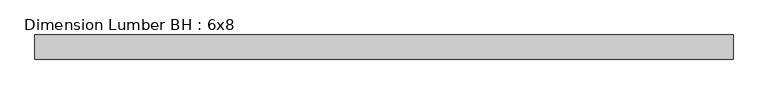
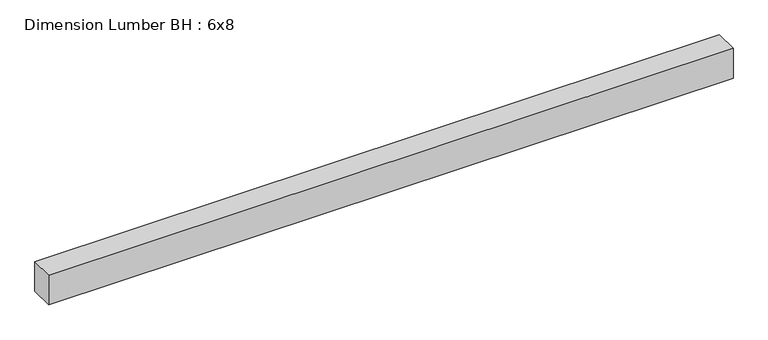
"""IFC4 building model written with IfcOpenShell, lengths in millimetres: beam geometry, Dimension Lumber BH : 6x8."""

import ifcopenshell
import ifcopenshell.guid

model = None  # the IFC model being written
_history = None  # IfcOwnerHistory: only IFC2X3 demands one
_inside = {}  # id of a spatial element -> (the spatial element, [elements in it])
_under = {}  # id of a project, library or spatial element -> (it, [spatial elements below it])
_declared = {}  # id of a project -> (the project, [libraries it declares])
_typed = {}  # id of a type object -> (the type object, [elements of that type])
_made_of = {}  # id of a material, layer set ... -> (it, [elements and type objects made of it])


def new_model(schema):
    """Start an empty IFC model of exactly this schema.

    Asked for "IFC4X3", IfcOpenShell would pick the latest addendum, in which some entities
    have other attributes; the version numbers below select the first issue.
    IFC2X3 requires an IfcOwnerHistory on every rooted entity: one is made here for all.
    """
    global model, _history
    if schema == "IFC4X3":
        model = ifcopenshell.file(schema_version=(4, 3, 0, 0))
    else:
        model = ifcopenshell.file(schema=schema)
    _inside.clear()
    _under.clear()
    _declared.clear()
    _typed.clear()
    _made_of.clear()
    _history = None
    if model.schema == "IFC2X3":
        org = make("IfcOrganization", Name="unknown")
        user = make(
            "IfcPersonAndOrganization",
            ThePerson=make("IfcPerson", FamilyName="unknown"),
            TheOrganization=org,
        )
        app = make(
            "IfcApplication",
            ApplicationDeveloper=org,
            Version="unknown",
            ApplicationFullName="unknown",
            ApplicationIdentifier="unknown",
        )
        _history = make(
            "IfcOwnerHistory",
            OwningUser=user,
            OwningApplication=app,
            ChangeAction="ADDED",
            CreationDate=0,
        )
    return model


def make(cls, **values):
    """One entity of the class cls with the attributes given. An attribute that is None is left unset."""
    return model.create_entity(
        cls, **{name: value for name, value in values.items() if value is not None}
    )


def rooted(cls, **values):
    """An entity with a GlobalId (a new one), such as an element, a storey or a relation."""
    return make(cls, GlobalId=ifcopenshell.guid.new(), OwnerHistory=_history, **values)


def si_unit(unit_type, name, prefix=None):
    """IfcSIUnit, for example si_unit("LENGTHUNIT", "METRE", prefix="MILLI")."""
    return make("IfcSIUnit", UnitType=unit_type, Prefix=prefix, Name=name)


def assignment(units):
    """IfcUnitAssignment: the units of a project."""
    return None if units is None else make("IfcUnitAssignment", Units=units)


def point(xyz):
    """IfcCartesianPoint."""
    return None if xyz is None else make("IfcCartesianPoint", Coordinates=xyz)


def direction(xyz):
    """IfcDirection."""
    return None if xyz is None else make("IfcDirection", DirectionRatios=xyz)


def frame(location, z_axis=None, x_axis=None):
    """IfcAxis2Placement3D, a coordinate frame: its origin and axes. An axis left out is left unset."""
    return make(
        "IfcAxis2Placement3D",
        Location=point(location),
        Axis=direction(z_axis),
        RefDirection=direction(x_axis),
    )


def origin():
    """The frame at (0, 0, 0) with its axes left unset."""
    return frame((0.0, 0.0, 0.0))


def place(relative_to, where):
    """IfcLocalPlacement: puts the frame where relative to a parent placement (None: the world)."""
    return make(
        "IfcLocalPlacement", PlacementRelTo=relative_to, RelativePlacement=where
    )


def context(
    kind, dimensions, precision=None, world=None, true_north=None, identifier=None
):
    """IfcGeometricRepresentationContext, for example the 3D "Model" context."""
    return make(
        "IfcGeometricRepresentationContext",
        ContextIdentifier=identifier,
        ContextType=kind,
        CoordinateSpaceDimension=dimensions,
        Precision=precision,
        WorldCoordinateSystem=world,
        TrueNorth=true_north,
    )


def project(units=None, contexts=None):
    """IfcProject with its units and contexts."""
    return rooted(
        "IfcProject",
        Name="project",
        RepresentationContexts=contexts,
        UnitsInContext=assignment(units),
    )


def spatial(cls, under=None, at=None, **own):
    """A site, building, storey or space (cls), placed at a placement, below another one or the project."""
    s = rooted(cls, ObjectPlacement=at, **own)
    if under is not None:
        _under.setdefault(under.id(), (under, []))[1].append(s)
    return s


def polyline(points):
    """IfcPolyline through the points."""
    return make("IfcPolyline", Points=[point(p) for p in points])


def outline(outer, holes=None, kind="AREA"):
    """IfcArbitraryClosedProfileDef: a profile drawn as a closed curve; with holes, ...WithVoids."""
    if holes is None:
        return make("IfcArbitraryClosedProfileDef", ProfileType=kind, OuterCurve=outer)
    return make(
        "IfcArbitraryProfileDefWithVoids",
        ProfileType=kind,
        OuterCurve=outer,
        InnerCurves=holes,
    )


def extrude(swept, where, along, depth):
    """IfcExtrudedAreaSolid: the profile swept, set in the frame where, extruded along a direction by depth."""
    return make(
        "IfcExtrudedAreaSolid",
        SweptArea=swept,
        Position=where,
        ExtrudedDirection=direction(along),
        Depth=depth,
    )


def shape(context_of_items, identifier, shape_type, items):
    """IfcShapeRepresentation: the items that make up one representation, for example the "Body"."""
    return make(
        "IfcShapeRepresentation",
        ContextOfItems=context_of_items,
        RepresentationIdentifier=identifier,
        RepresentationType=shape_type,
        Items=items,
    )


def source(mapping_origin, context_of_items, identifier, shape_type, items):
    """IfcRepresentationMap: a shape defined once, which mapped items show again and again."""
    return make(
        "IfcRepresentationMap",
        MappingOrigin=mapping_origin,
        MappedRepresentation=shape(context_of_items, identifier, shape_type, items),
    )


def transform(
    local_origin,
    x_axis=None,
    y_axis=None,
    z_axis=None,
    scale=None,
    scale2=None,
    scale3=None,
    uniform=True,
):
    """IfcCartesianTransformationOperator3D, or its non-uniform kind. x_axis, y_axis, z_axis: its Axis1, 2, 3."""
    if uniform:
        return make(
            "IfcCartesianTransformationOperator3D",
            Axis1=direction(x_axis),
            Axis2=direction(y_axis),
            LocalOrigin=point(local_origin),
            Scale=scale,
            Axis3=direction(z_axis),
        )
    return make(
        "IfcCartesianTransformationOperator3DnonUniform",
        Axis1=direction(x_axis),
        Axis2=direction(y_axis),
        LocalOrigin=point(local_origin),
        Scale=scale,
        Axis3=direction(z_axis),
        Scale2=scale2,
        Scale3=scale3,
    )


def mapped(mapping_source, mapping_target):
    """IfcMappedItem: shows the shape of a source again, moved by a transform."""
    return make(
        "IfcMappedItem", MappingSource=mapping_source, MappingTarget=mapping_target
    )


def made_of(thing, what):
    """Note that an element or type object is made of a material, layer set ...; save() writes the relation."""
    if what is not None:
        _made_of.setdefault(what.id(), (what, []))[1].append(thing)
    return thing


def element(
    cls,
    number,
    at=None,
    inside=None,
    cuts=None,
    type_object=None,
    material=None,
    context=None,
    identifier="Body",
    shape_type=None,
    held_by="IfcProductDefinitionShape",
    body=None,
    shapes=None,
    **own,
):
    """One element of the class cls, such as IfcWall. Its Tag is "e" and its number.

    at: its placement. inside: the storey or other place that contains it. cuts: it is an
    opening in that element (IfcRelVoidsElement). A single representation is given by context,
    identifier, shape_type and body (its items); several are given by shapes. held_by: the class
    of the entity that holds the representations. save() writes the other relations.
    """
    e = rooted(cls, Tag="e%d" % number, ObjectPlacement=at, **own)
    if body is not None:
        shapes = [shape(context, identifier, shape_type, body)]
    if shapes is not None:
        e.Representation = make(held_by, Representations=shapes)
    if inside is not None:
        _inside.setdefault(inside.id(), (inside, []))[1].append(e)
    if cuts is not None:
        rooted(
            "IfcRelVoidsElement", RelatingBuildingElement=cuts, RelatedOpeningElement=e
        )
    if type_object is not None:
        _typed.setdefault(type_object.id(), (type_object, []))[1].append(e)
    return made_of(e, material)


def aggregate(whole, parts):
    """IfcRelAggregates: a whole, such as a stair, and the parts it consists of."""
    return rooted("IfcRelAggregates", RelatingObject=whole, RelatedObjects=parts)


def save(model, path):
    """Write the relations noted so far, then the file.

    IfcRelAggregates (storeys below a building ...), IfcRelContainedInSpatialStructure (elements
    in a storey), IfcRelDefinesByType, IfcRelAssociatesMaterial and IfcRelDeclares: one each for
    every whole, place, type object, material and project.
    """
    for whole, parts in _under.values():
        aggregate(whole, parts)
    for where, things in _inside.values():
        rooted(
            "IfcRelContainedInSpatialStructure",
            RelatedElements=things,
            RelatingStructure=where,
        )
    for kind, things in _typed.values():
        rooted("IfcRelDefinesByType", RelatedObjects=things, RelatingType=kind)
    for what, things in _made_of.values():
        rooted("IfcRelAssociatesMaterial", RelatedObjects=things, RelatingMaterial=what)
    for by, libraries in _declared.values():
        rooted("IfcRelDeclares", RelatingContext=by, RelatedDefinitions=libraries)
    model.write(path)


def dimension_lumber_bh_6x8_68a0e328(model_context):
    return source(origin(), model_context, "Body", "SweptSolid", [
        extrude(outline(polyline([(1983.63205, 69.85), (1983.63205, -69.85), (-2053.48205, -69.85), (-2053.48205, 69.85), (1983.63205, 69.85)])), frame((0.0, 0.0, -92.075), z_axis=(0.0, 0.0, 1.0), x_axis=(1.0, 0.0, 0.0)), (0.0, 0.0, 1.0), 184.15),
    ])


if __name__ == "__main__":
    model = new_model("IFC4")
    model_context = context("Model", 3, world=origin())
    ifc_project = project(units=[si_unit("LENGTHUNIT", "METRE", prefix="MILLI")], contexts=[model_context])
    site = spatial("IfcSite", under=ifc_project)
    building = spatial("IfcBuilding", under=site)
    placement = place(None, origin())
    dimension_lumber_bh_6x8_shape = dimension_lumber_bh_6x8_68a0e328(model_context)
    element("IfcBeam", 1, ObjectType="Dimension Lumber BH : 6x8", at=placement, inside=building, context=model_context, shape_type="MappedRepresentation", body=[
        mapped(dimension_lumber_bh_6x8_shape, transform((0.0, 0.0, 0.0), x_axis=(1.0, 0.0, 0.0), y_axis=(0.0, 1.0, 0.0), z_axis=(0.0, 0.0, 1.0))),
    ])
    save(model, "model.ifc")
